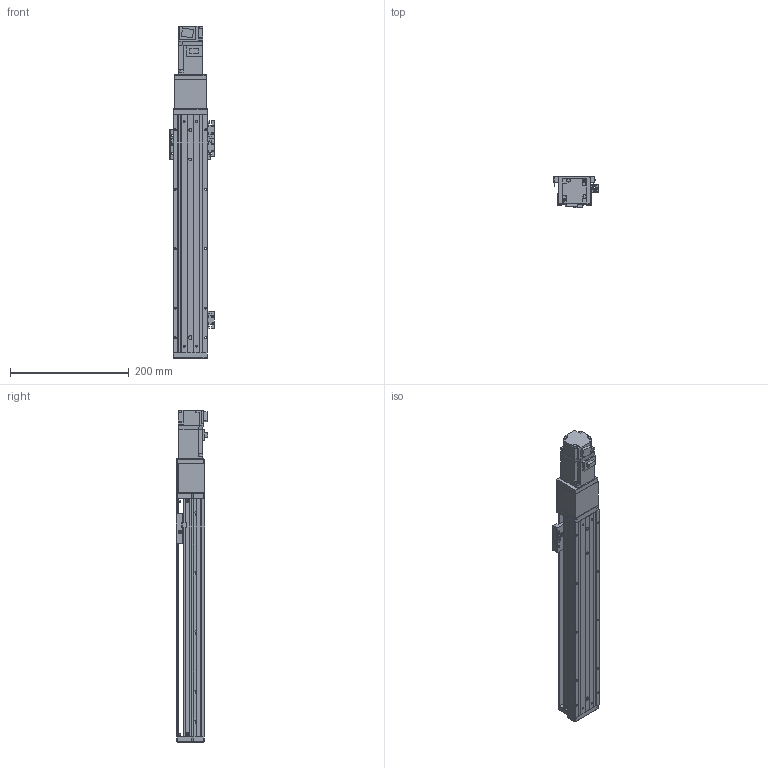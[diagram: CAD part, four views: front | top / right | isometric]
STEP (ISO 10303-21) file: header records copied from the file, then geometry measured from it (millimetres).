
FILE_DESCRIPTION (( 'STEP AP203' ), '1' );
FILE_NAME ('KTHA50-300-BC-M10-C4L.step', '2022-03-19T07:02:55', ( '微软用户' ), ( '微软中国' ), 'SwSTEP 2.0', 'SolidWorks 2020', '' );
FILE_SCHEMA (( 'CONFIG_CONTROL_DESIGN' ));
Length unit declared in the file: millimetre
Products named in the file (18): KTHA50-005; CTHA60-016; KTHA50-300-BC-M10-C4L; GB¨uT 70.2-M3¡Á6_M3¡Á6; CTHA60-021; EE_SX911P_R; GBT 70.3-M3℅6; GBT77-2000 M3×3; CTHA50-027; GBT 70.1-M3℅6; CTHA50-006-2_CTHA60-006-2; KTHA50-002; CTHA60-017; CTHA50-013; KTHA50-001_400; KTHA50-004; GBT 70.1-M4×12; HG-KR13（三菱）
Assembly tree (52 placements, depth 2):
  KTHA50-300-BC-M10-C4L
    KTHA50-001_400
    KTHA50-002
    KTHA50-004
    KTHA50-005
    GB¨uT 70.2-M3¡Á6_M3¡Á6  x6
    EE_SX911P_R  x3
    GBT77-2000 M3×3  x6
    GBT 70.1-M3℅6  x6
    CTHA60-017  x3
    GBT 70.1-M4×12  x10
    CTHA60-016  x2
    CTHA60-021  x2
    GBT 70.3-M3℅6  x6
    CTHA50-027
    CTHA50-006-2_CTHA60-006-2
    CTHA50-013
    HG-KR13（三菱）
Bounding box: 75.22 x 53.3 x 558.6 mm (x, y, z)
Volume: 952426 mm3; surface area: 249895.7 mm2
Topology: 55 solids, 55 shells, 2146 faces, 5066 edges, 3100 vertices
Faces by surface type: plane 1220, cylinder 506, cone 316, torus 88, sphere 16
Entity records: 34248 total; most frequent: CARTESIAN_POINT 5578, DIRECTION 5510, ORIENTED_EDGE 5204, EDGE_CURVE 2602, AXIS2_PLACEMENT_3D 1845, VECTOR 1820, LINE 1820, VERTEX_POINT 1633
